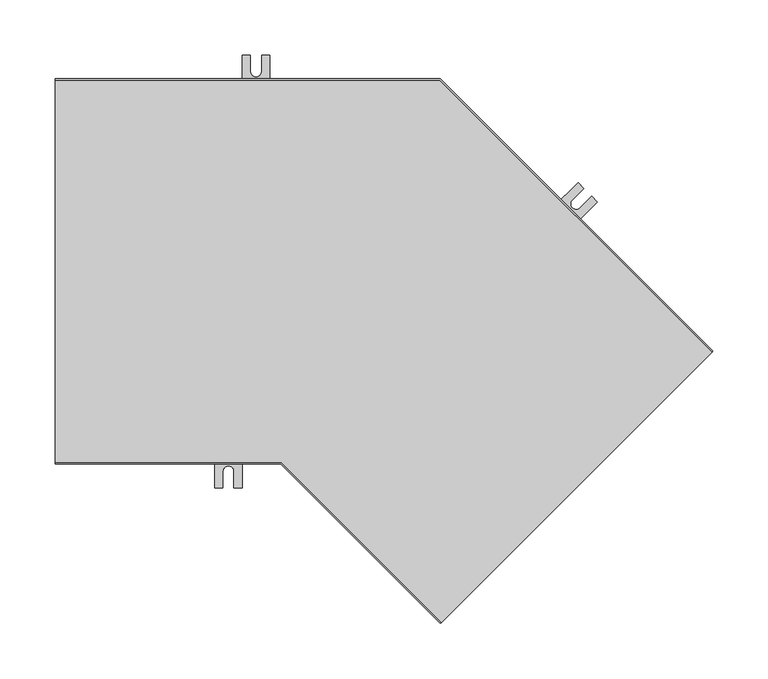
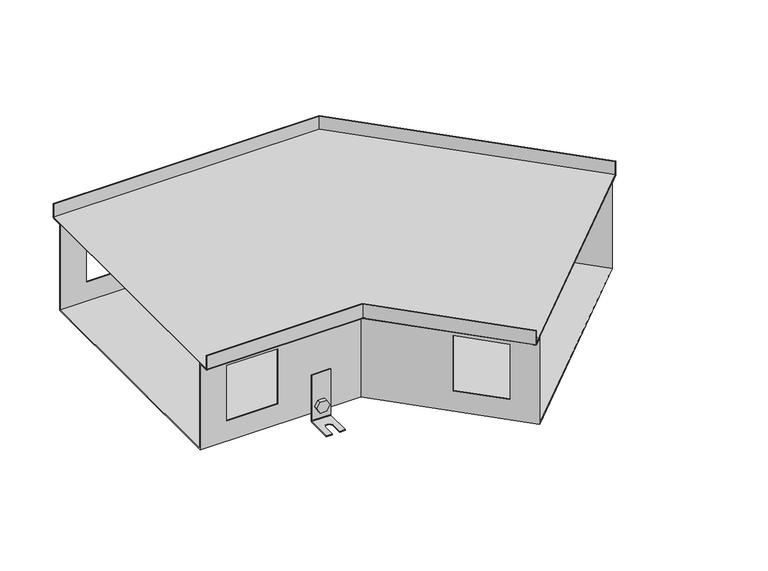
"""IFC4 building model written with IfcOpenShell, lengths in millimetres: proxy geometry, TECHNO_Угловой элемент_KVU : 350_140_135°."""

from ifc_helpers import new_model, si_unit, point, frame, frame_2d, origin, place, context, project, spatial, polyline, circle_curve, ellipse_curve, trimmed, segment, composite_curve, outline, extrude, source, transform, mapped, element, save
from ifc_brep_helpers import plane_surface, cylinder_surface, revolved_surface, advanced_brep


def mechanical_equipment_51e73712(model_context):
    return source(origin(), model_context, "Body", "SolidModel", [
        extrude(outline(composite_curve([segment(trimmed(circle_curve(frame_2d((0.0, -7.5000001)), 7.5), [point((0.0, -15.0))], [point((0.0, 0.0))], False, "CARTESIAN"), True, "CONTINUOUS"), segment(trimmed(circle_curve(frame_2d((0.0, -7.5000001)), 7.5), [point((0.0, 0.0))], [point((0.0, -15.0))], False, "CARTESIAN"), True, "CONTINUOUS")], self_intersect=False)), frame((422.4077344, -35.4349781, -130.5), z_axis=(0.7071067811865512, 0.7071067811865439, 0.0), x_axis=(0.0, 0.0, 1.0)), (0.0, 0.0, 1.0), 1.5),
        extrude(outline(polyline([(0.0, 0.0), (8.660254, 0.0), (12.990381, -7.5), (8.660254, -15.0), (0.0, -15.0), (-4.330127, -7.5), (0.0, 0.0)])), frame((406.5259365, -28.4627256, -130.5), z_axis=(0.7071067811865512, 0.7071067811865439, 0.0), x_axis=(0.3535533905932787, -0.3535533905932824, -0.8660254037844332)), (0.0, 0.0, 1.0), 5.1),
        advanced_brep(
        [(425.0947402, -39.8190401, -85.5), (425.0947402, -39.8190401, -148.5), (424.5290547, -40.3847255, -149.3), (401.194531, -63.7192493, -149.3), (401.194531, -63.7192493, -150.5), (424.5290547, -40.3847255, -150.5), (425.9432683, -38.970512, -148.5), (425.9432683, -38.970512, -85.5), (407.4170706, -22.1413706, -85.5), (408.2655988, -21.2928425, -85.5), (408.2655988, -21.2928425, -148.5), (406.8513852, -22.707056, -150.5), (383.5168614, -46.0415798, -150.5), (383.5168614, -46.0415798, -149.3), (406.8513852, -22.707056, -149.3), (407.4170706, -22.1413706, -148.5), (388.8201623, -51.3448807, -149.3), (399.426764, -40.7382789, -149.3), (406.4978318, -47.8093468, -149.3), (395.8912301, -58.4159485, -149.3), (395.8912301, -58.4159485, -150.5), (388.8201623, -51.3448807, -150.5), (406.4978318, -47.8093468, -150.5), (399.426764, -40.7382789, -150.5)],
        [
            (0, 1),
            (1, 2, circle_curve(frame((424.5290547, -40.3847255, -148.5), z_axis=(-0.7071067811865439, 0.7071067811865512, 0.0), x_axis=(-0.7071067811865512, -0.7071067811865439, 0.0)), 0.8)),
            (2, 3),
            (3, 4),
            (4, 5),
            (5, 6, circle_curve(frame((424.5290547, -40.3847255, -148.5), z_axis=(0.7071067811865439, -0.7071067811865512, 0.0), x_axis=(-0.7071067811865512, -0.7071067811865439, 0.0)), 2.0)),
            (6, 7),
            (7, 0),
            (8, 9),
            (9, 10),
            (10, 11, circle_curve(frame((406.8513852, -22.707056, -148.5), z_axis=(-0.7071067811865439, 0.7071067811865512, 0.0), x_axis=(-0.7071067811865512, -0.7071067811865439, 0.0)), 2.0)),
            (11, 12),
            (12, 13),
            (13, 14),
            (14, 15, circle_curve(frame((406.8513852, -22.707056, -148.5), z_axis=(0.7071067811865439, -0.7071067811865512, 0.0), x_axis=(-0.7071067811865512, -0.7071067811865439, 0.0)), 0.8)),
            (15, 8),
            (0, 8),
            (15, 1),
            (14, 2),
            (13, 16),
            (16, 17),
            (17, 18, circle_curve(frame((402.9622979, -44.2738128, -149.3), z_axis=(0.0, 0.0, -1.0), x_axis=(0.7071067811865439, -0.7071067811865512, 0.0)), 5.0)),
            (18, 19),
            (19, 3),
            (19, 20),
            (20, 4),
            (12, 21),
            (21, 16),
            (20, 22),
            (22, 23, circle_curve(frame((402.9622979, -44.2738128, -150.5), z_axis=(0.0, 0.0, 1.0), x_axis=(0.7071067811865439, -0.7071067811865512, 0.0)), 5.0)),
            (23, 21),
            (11, 5),
            (10, 6),
            (9, 7),
            (23, 17),
            (18, 22),
        ],
        [
            plane_surface(frame((425.0947402, -39.8190401, -85.5), z_axis=(0.7071067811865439, -0.7071067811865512, 0.0), x_axis=(0.0, 0.0, -1.0))),
            plane_surface(frame((407.4170706, -22.1413706, -85.5), z_axis=(-0.7071067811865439, 0.7071067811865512, 0.0), x_axis=(0.0, 0.0, 1.0))),
            plane_surface(frame((425.0947402, -39.8190401, -85.5), z_axis=(-0.7071067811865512, -0.7071067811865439, 0.0), x_axis=(-0.7071067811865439, 0.7071067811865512, 0.0))),
            revolved_surface(polyline([(406.2856997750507, -23.27274142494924, -148.5), (423.9633693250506, -40.950410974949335, -148.5)]), (406.8513852, -22.707056, -148.5), (-0.7071067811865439, 0.7071067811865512, 0.0)),
            plane_surface(frame((424.5290547, -40.3847255, -149.3), z_axis=(0.0, 0.0, 1.0), x_axis=(-0.7071067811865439, 0.7071067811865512, 0.0))),
            plane_surface(frame((401.194531, -63.7192493, -149.3), z_axis=(-0.7071067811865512, -0.7071067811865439, 0.0), x_axis=(-0.7071067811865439, 0.7071067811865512, 0.0))),
            plane_surface(frame((401.194531, -63.7192493, -150.5), z_axis=(0.0, 0.0, -1.0), x_axis=(-0.7071067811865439, 0.7071067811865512, 0.0))),
            cylinder_surface(frame((406.8513852, -22.707056, -148.5), z_axis=(0.7071067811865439, -0.7071067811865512, 0.0), x_axis=(-0.7071067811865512, -0.7071067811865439, 0.0)), 2.0),
            plane_surface(frame((425.9432683, -38.970512, -148.5), z_axis=(0.7071067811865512, 0.7071067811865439, 0.0), x_axis=(-0.7071067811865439, 0.7071067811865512, 0.0))),
            plane_surface(frame((425.9432683, -38.970512, -85.5), z_axis=(0.0, 0.0, 1.0), x_axis=(-0.7071067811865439, 0.7071067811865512, 0.0))),
            plane_surface(frame((399.426764, -40.7382789, -149.3), z_axis=(0.7071067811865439, -0.7071067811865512, 0.0), x_axis=(0.0, 0.0, -1.0))),
            plane_surface(frame((395.8912301, -58.4159485, -149.3), z_axis=(-0.707106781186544, 0.7071067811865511, 0.0), x_axis=(0.0, 0.0, -1.0))),
            revolved_surface(polyline([(406.4978318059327, -47.80934670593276, -149.3), (406.4978318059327, -47.80934670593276, -150.5)]), (402.9622979, -44.2738128, -150.5), (0.0, 0.0, 1.0)),
        ],
        [
            (0, [[1, 2, 3, 4, 5, 6, 7, 8]]),
            (1, [[9, 10, 11, 12, 13, 14, 15, 16]]),
            (2, [[-1, 17, -16, 18]]),
            (3, [[-2, -18, -15, 19]]),
            (4, [[-3, -19, -14, 20, 21, 22, 23, 24]]),
            (5, [[-4, -24, 25, 26]]),
            (5, [[-13, 27, 28, -20]]),
            (6, [[-5, -26, 29, 30, 31, -27, -12, 32]]),
            (7, [[-6, -32, -11, 33]]),
            (8, [[-7, -33, -10, 34]]),
            (9, [[-8, -34, -9, -17]]),
            (10, [[35, -21, -28, -31]]),
            (11, [[36, -29, -25, -23]]),
            (12, [[-35, -30, -36, -22]]),
        ],
    ),
        extrude(outline(composite_curve([segment(trimmed(circle_curve(frame_2d((0.0, -7.5)), 7.5), [point((0.0, -15.0))], [point((0.0, 0.0))], False, "CARTESIAN"), True, "CONTINUOUS"), segment(trimmed(circle_curve(frame_2d((0.0, -7.5)), 7.5), [point((0.0, 0.0))], [point((0.0, -15.0))], False, "CARTESIAN"), True, "CONTINUOUS")], self_intersect=False)), frame((452.6719046, 51.3977346, -130.5), z_axis=(0.7071067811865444, 0.7071067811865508, 0.0), x_axis=(0.0, 0.0, -1.0)), (0.0, 0.0, 1.0), 1.5),
        extrude(outline(polyline([(0.0, 0.0), (4.330127, -7.5), (0.0, -15.0000001), (-8.6602541, -15.0000001), (-12.9903811, -7.5000001), (-8.6602541, 0.0), (0.0, 0.0)])), frame((466.0081182, 41.8798977, -130.5), z_axis=(0.7071067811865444, 0.7071067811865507, 0.0), x_axis=(0.35355339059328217, -0.35355339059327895, 0.8660254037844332)), (0.0, 0.0, 1.0), 5.1),
        advanced_brep(
        [(451.045559, 56.8424569, -85.5), (451.045559, 56.8424569, -148.5), (451.6112445, 57.4081423, -149.3), (474.9457682, 80.7426661, -149.3), (474.9457682, 80.7426661, -150.5), (451.6112445, 57.4081423, -150.5), (450.1970309, 55.9939287, -148.5), (450.1970309, 55.9939287, -85.5), (468.7232286, 39.1647873, -85.5), (467.8747004, 38.3162592, -85.5), (467.8747004, 38.3162592, -148.5), (469.288914, 39.7304728, -150.5), (492.6234378, 63.0649965, -150.5), (492.6234378, 63.0649965, -149.3), (469.288914, 39.7304728, -149.3), (468.7232286, 39.1647873, -148.5), (487.3201369, 68.3682974, -149.3), (476.7135352, 57.7616957, -149.3), (469.6424674, 64.8327635, -149.3), (480.2490691, 75.4393652, -149.3), (480.2490691, 75.4393652, -150.5), (487.3201369, 68.3682974, -150.5), (469.6424674, 64.8327635, -150.5), (476.7135352, 57.7616957, -150.5)],
        [
            (0, 1),
            (1, 2, circle_curve(frame((451.6112445, 57.4081423, -148.5), z_axis=(0.7071067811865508, -0.7071067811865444, 0.0), x_axis=(0.7071067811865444, 0.7071067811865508, 0.0)), 0.8)),
            (2, 3),
            (3, 4),
            (4, 5),
            (5, 6, circle_curve(frame((451.6112445, 57.4081423, -148.5), z_axis=(-0.7071067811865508, 0.7071067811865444, 0.0), x_axis=(0.7071067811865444, 0.7071067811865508, 0.0)), 2.0)),
            (6, 7),
            (7, 0),
            (8, 9),
            (9, 10),
            (10, 11, circle_curve(frame((469.288914, 39.7304728, -148.5), z_axis=(0.7071067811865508, -0.7071067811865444, 0.0), x_axis=(0.7071067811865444, 0.7071067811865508, 0.0)), 2.0)),
            (11, 12),
            (12, 13),
            (13, 14),
            (14, 15, circle_curve(frame((469.288914, 39.7304728, -148.5), z_axis=(-0.7071067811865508, 0.7071067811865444, 0.0), x_axis=(0.7071067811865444, 0.7071067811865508, 0.0)), 0.8)),
            (15, 8),
            (0, 8),
            (15, 1),
            (14, 2),
            (13, 16),
            (16, 17),
            (17, 18, circle_curve(frame((473.1780013, 61.2972296, -149.3), z_axis=(0.0, 0.0, -1.0), x_axis=(-0.7071067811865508, 0.7071067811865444, 0.0)), 5.0)),
            (18, 19),
            (19, 3),
            (19, 20),
            (20, 4),
            (12, 21),
            (21, 16),
            (20, 22),
            (22, 23, circle_curve(frame((473.1780013, 61.2972296, -150.5), z_axis=(0.0, 0.0, 1.0), x_axis=(-0.7071067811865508, 0.7071067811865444, 0.0)), 5.0)),
            (23, 21),
            (11, 5),
            (10, 6),
            (9, 7),
            (23, 17),
            (18, 22),
        ],
        [
            plane_surface(frame((451.045559, 56.8424569, -85.5), z_axis=(-0.7071067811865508, 0.7071067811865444, 0.0), x_axis=(0.0, 0.0, -1.0))),
            plane_surface(frame((468.7232286, 39.1647873, -85.5), z_axis=(0.7071067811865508, -0.7071067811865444, 0.0), x_axis=(0.0, 0.0, 1.0))),
            plane_surface(frame((451.045559, 56.8424569, -85.5), z_axis=(0.7071067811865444, 0.7071067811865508, 0.0), x_axis=(0.7071067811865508, -0.7071067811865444, 0.0))),
            revolved_surface(polyline([(469.8545994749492, 40.29615817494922, -148.5), (452.1769298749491, 57.97382777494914, -148.5)]), (469.288914, 39.7304728, -148.5), (0.7071067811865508, -0.7071067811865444, 0.0)),
            plane_surface(frame((451.6112445, 57.4081423, -149.3), z_axis=(0.0, 0.0, 1.0000000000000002), x_axis=(0.7071067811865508, -0.7071067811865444, 0.0))),
            plane_surface(frame((474.9457682, 80.7426661, -149.3), z_axis=(0.7071067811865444, 0.7071067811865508, 0.0), x_axis=(0.7071067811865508, -0.7071067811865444, 0.0))),
            plane_surface(frame((474.9457682, 80.7426661, -150.5), z_axis=(0.0, 0.0, -1.0000000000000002), x_axis=(0.7071067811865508, -0.7071067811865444, 0.0))),
            cylinder_surface(frame((469.288914, 39.7304728, -148.5), z_axis=(-0.7071067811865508, 0.7071067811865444, 0.0), x_axis=(0.7071067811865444, 0.7071067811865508, 0.0)), 2.0),
            plane_surface(frame((450.1970309, 55.9939287, -148.5), z_axis=(-0.7071067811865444, -0.7071067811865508, 0.0), x_axis=(0.7071067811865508, -0.7071067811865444, 0.0))),
            plane_surface(frame((450.1970309, 55.9939287, -85.5), z_axis=(0.0, 0.0, 1.0000000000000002), x_axis=(0.7071067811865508, -0.7071067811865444, 0.0))),
            plane_surface(frame((476.7135352, 57.7616957, -149.3), z_axis=(-0.7071067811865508, 0.7071067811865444, 0.0), x_axis=(0.0, 0.0, -1.0))),
            plane_surface(frame((480.2490691, 75.4393652, -149.3), z_axis=(0.7071067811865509, -0.7071067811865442, 0.0), x_axis=(0.0, 0.0, -1.0))),
            revolved_surface(polyline([(469.64246739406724, 64.83276350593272, -149.3), (469.64246739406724, 64.83276350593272, -150.5)]), (473.1780013, 61.2972296, -150.5), (0.0, 0.0, 1.0)),
        ],
        [
            (0, [[1, 2, 3, 4, 5, 6, 7, 8]]),
            (1, [[9, 10, 11, 12, 13, 14, 15, 16]]),
            (2, [[-1, 17, -16, 18]]),
            (3, [[-2, -18, -15, 19]]),
            (4, [[-3, -19, -14, 20, 21, 22, 23, 24]]),
            (5, [[-4, -24, 25, 26]]),
            (5, [[-13, 27, 28, -20]]),
            (6, [[-5, -26, 29, 30, 31, -27, -12, 32]]),
            (7, [[-6, -32, -11, 33]]),
            (8, [[-7, -33, -10, 34]]),
            (9, [[-8, -34, -9, -17]]),
            (10, [[35, -21, -28, -31]]),
            (11, [[36, -29, -25, -23]]),
            (12, [[-35, -30, -36, -22]]),
        ],
    ),
        extrude(outline(composite_curve([segment(trimmed(circle_curve(frame_2d((-130.5, 182.5)), 7.5), [point((-130.5, 175.0))], [point((-130.5, 190.0))], False, "CARTESIAN"), True, "CONTINUOUS"), segment(trimmed(circle_curve(frame_2d((-130.5, 182.5)), 7.5), [point((-130.5, 190.0))], [point((-130.5, 175.0))], False, "CARTESIAN"), True, "CONTINUOUS")], self_intersect=False)), frame((0.0, 160.2, 0.0), z_axis=(0.0, 1.0, 0.0), x_axis=(0.0, 0.0, 1.0)), (0.0, 0.0, 1.0), 1.5),
        extrude(outline(polyline([(-130.5, 173.839746), (-138.0, 178.169873), (-138.0, 186.830127), (-130.5, 191.160254), (-123.0, 186.830127), (-123.0, 178.169873), (-130.5, 173.839746)])), frame((0.0, 162.9, 0.0), z_axis=(0.0, 1.0, 0.0), x_axis=(0.0, 0.0, 1.0)), (0.0, 0.0, 1.0), 5.1),
        advanced_brep(
        [(195.0, 162.9, -85.5), (195.0, 161.7, -85.5), (195.0, 161.7, -148.5), (195.0, 163.7, -150.5), (195.0, 196.7, -150.5), (195.0, 196.7, -149.3), (195.0, 163.7, -149.3), (195.0, 162.9, -148.5), (170.0, 162.9, -85.5), (170.0, 162.9, -148.5), (170.0, 163.7, -149.3), (170.0, 196.7, -149.3), (170.0, 196.7, -150.5), (170.0, 163.7, -150.5), (170.0, 161.7, -148.5), (170.0, 161.7, -85.5), (187.5, 196.7, -149.3), (187.5, 181.7, -149.3), (177.5, 181.7, -149.3), (177.5, 196.7, -149.3), (177.5, 196.7, -150.5), (187.5, 196.7, -150.5), (177.5, 181.7, -150.5), (187.5, 181.7, -150.5)],
        [
            (0, 1),
            (1, 2),
            (2, 3, circle_curve(frame((195.0, 163.7, -148.5), z_axis=(1.0, 0.0, 0.0), x_axis=(0.0, 1.0, 0.0)), 2.0)),
            (3, 4),
            (4, 5),
            (5, 6),
            (6, 7, circle_curve(frame((195.0, 163.7, -148.5), z_axis=(-1.0, 0.0, 0.0), x_axis=(0.0, 1.0, 0.0)), 0.8)),
            (7, 0),
            (8, 9),
            (9, 10, circle_curve(frame((170.0, 163.7, -148.5), z_axis=(1.0, 0.0, 0.0), x_axis=(0.0, 1.0, 0.0)), 0.8)),
            (10, 11),
            (11, 12),
            (12, 13),
            (13, 14, circle_curve(frame((170.0, 163.7, -148.5), z_axis=(-1.0, 0.0, 0.0), x_axis=(0.0, 1.0, 0.0)), 2.0)),
            (14, 15),
            (15, 8),
            (7, 9),
            (8, 0),
            (6, 10),
            (5, 16),
            (16, 17),
            (17, 18, circle_curve(frame((182.5, 181.7, -149.3), z_axis=(0.0, 0.0, -1.0), x_axis=(1.0, 0.0, 0.0)), 5.0)),
            (18, 19),
            (19, 11),
            (19, 20),
            (20, 12),
            (4, 21),
            (21, 16),
            (3, 13),
            (20, 22),
            (22, 23, circle_curve(frame((182.5, 181.7, -150.5), z_axis=(0.0, 0.0, 1.0), x_axis=(1.0, 0.0, 0.0)), 5.0)),
            (23, 21),
            (2, 14),
            (1, 15),
            (18, 22),
            (23, 17),
        ],
        [
            plane_surface(frame((195.0, 162.9, -85.5), z_axis=(1.0, 0.0, 0.0), x_axis=(0.0, 0.0, -1.0))),
            plane_surface(frame((170.0, 162.9, -85.5), z_axis=(-1.0, 0.0, 0.0), x_axis=(0.0, 0.0, 1.0))),
            plane_surface(frame((195.0, 162.9, -85.5), z_axis=(0.0, 1.0, 0.0), x_axis=(-1.0, 0.0, 0.0))),
            revolved_surface(polyline([(170.0, 164.5, -148.5), (195.0, 164.5, -148.5)]), (170.0, 163.7, -148.5), (-1.0, 0.0, 0.0)),
            plane_surface(frame((195.0, 163.7, -149.3), z_axis=(0.0, 0.0, 1.0), x_axis=(-1.0, 0.0, 0.0))),
            plane_surface(frame((195.0, 196.7, -149.3), z_axis=(0.0, 1.0, 0.0), x_axis=(-1.0, 0.0, 0.0))),
            plane_surface(frame((195.0, 196.7, -150.5), z_axis=(0.0, 0.0, -1.0), x_axis=(-1.0, 0.0, 0.0))),
            cylinder_surface(frame((170.0, 163.7, -148.5), z_axis=(1.0, 0.0, 0.0), x_axis=(0.0, 1.0, 0.0)), 2.0),
            plane_surface(frame((195.0, 161.7, -148.5), z_axis=(0.0, -1.0, 0.0), x_axis=(-1.0, 0.0, 0.0))),
            plane_surface(frame((195.0, 161.7, -85.5), z_axis=(0.0, 0.0, 1.0), x_axis=(-1.0, 0.0, 0.0))),
            plane_surface(frame((177.5, 181.7, -149.3), z_axis=(1.0, 0.0, 0.0), x_axis=(0.0, 0.0, -1.0))),
            plane_surface(frame((187.5, 196.7, -149.3), z_axis=(-1.0, 0.0, 0.0), x_axis=(0.0, 0.0, -1.0))),
            revolved_surface(polyline([(187.5, 181.7, -149.3), (187.5, 181.7, -150.5)]), (182.5, 181.7, -150.5), (0.0, 0.0, 1.0)),
        ],
        [
            (0, [[1, 2, 3, 4, 5, 6, 7, 8]]),
            (1, [[9, 10, 11, 12, 13, 14, 15, 16]]),
            (2, [[17, -9, 18, -8]]),
            (3, [[19, -10, -17, -7]]),
            (4, [[20, 21, 22, 23, 24, -11, -19, -6]]),
            (5, [[-24, 25, 26, -12]]),
            (5, [[27, 28, -20, -5]]),
            (6, [[29, -13, -26, 30, 31, 32, -27, -4]]),
            (7, [[33, -14, -29, -3]]),
            (8, [[34, -15, -33, -2]]),
            (9, [[-18, -16, -34, -1]]),
            (10, [[-30, -25, -23, 35]]),
            (11, [[-21, -28, -32, 36]]),
            (12, [[-22, -36, -31, -35]]),
        ],
    ),
        extrude(outline(composite_curve([segment(trimmed(circle_curve(frame_2d((-130.5, 157.5)), 7.5), [point((-130.5, 150.0))], [point((-130.5, 165.0))], False, "CARTESIAN"), True, "CONTINUOUS"), segment(trimmed(circle_curve(frame_2d((-130.5, 157.5)), 7.5), [point((-130.5, 165.0))], [point((-130.5, 150.0))], False, "CARTESIAN"), True, "CONTINUOUS")], self_intersect=False)), frame((0.0, -161.7, 0.0), z_axis=(0.0, 1.0, 0.0), x_axis=(0.0, 0.0, 1.0)), (0.0, 0.0, 1.0), 1.5),
        extrude(outline(polyline([(-130.5, 148.839746), (-138.0, 153.169873), (-138.0, 161.830127), (-130.5, 166.160254), (-123.0, 161.830127), (-123.0, 153.169873), (-130.5, 148.839746)])), frame((0.0, -168.0, 0.0), z_axis=(0.0, 1.0, 0.0), x_axis=(0.0, 0.0, 1.0)), (0.0, 0.0, 1.0), 5.1),
        advanced_brep(
        [(170.0, -162.9, -85.5), (170.0, -162.9, -148.5), (170.0, -163.7, -149.3), (170.0, -196.7, -149.3), (170.0, -196.7, -150.5), (170.0, -163.7, -150.5), (170.0, -161.7, -148.5), (170.0, -161.7, -85.5), (145.0, -162.9, -85.5), (145.0, -161.7, -85.5), (145.0, -161.7, -148.5), (145.0, -163.7, -150.5), (145.0, -196.7, -150.5), (145.0, -196.7, -149.3), (145.0, -163.7, -149.3), (145.0, -162.9, -148.5), (152.5, -196.7, -149.3), (152.5, -181.7, -149.3), (162.5, -181.7, -149.3), (162.5, -196.7, -149.3), (162.5, -196.7, -150.5), (152.5, -196.7, -150.5), (162.5, -181.7, -150.5), (152.5, -181.7, -150.5)],
        [
            (0, 1),
            (1, 2, circle_curve(frame((170.0, -163.7, -148.5), z_axis=(-1.0, 0.0, 0.0), x_axis=(0.0, -1.0, 0.0)), 0.8)),
            (2, 3),
            (3, 4),
            (4, 5),
            (5, 6, circle_curve(frame((170.0, -163.7, -148.5), z_axis=(1.0, 0.0, 0.0), x_axis=(0.0, -1.0, 0.0)), 2.0)),
            (6, 7),
            (7, 0),
            (8, 9),
            (9, 10),
            (10, 11, circle_curve(frame((145.0, -163.7, -148.5), z_axis=(-1.0, 0.0, 0.0), x_axis=(0.0, -1.0, 0.0)), 2.0)),
            (11, 12),
            (12, 13),
            (13, 14),
            (14, 15, circle_curve(frame((145.0, -163.7, -148.5), z_axis=(1.0, 0.0, 0.0), x_axis=(0.0, -1.0, 0.0)), 0.8)),
            (15, 8),
            (0, 8),
            (15, 1),
            (14, 2),
            (13, 16),
            (16, 17),
            (17, 18, circle_curve(frame((157.5, -181.7, -149.3), z_axis=(0.0, 0.0, -1.0), x_axis=(1.0, 0.0, 0.0)), 5.0)),
            (18, 19),
            (19, 3),
            (19, 20),
            (20, 4),
            (12, 21),
            (21, 16),
            (20, 22),
            (22, 23, circle_curve(frame((157.5, -181.7, -150.5), z_axis=(0.0, 0.0, 1.0), x_axis=(1.0, 0.0, 0.0)), 5.0)),
            (23, 21),
            (11, 5),
            (10, 6),
            (9, 7),
            (23, 17),
            (18, 22),
        ],
        [
            plane_surface(frame((170.0, -162.9, -85.5), z_axis=(1.0, 0.0, 0.0), x_axis=(0.0, 0.0, -1.0))),
            plane_surface(frame((145.0, -162.9, -85.5), z_axis=(-1.0, 0.0, 0.0), x_axis=(0.0, 0.0, 1.0))),
            plane_surface(frame((170.0, -162.9, -85.5), z_axis=(0.0, -1.0, 0.0), x_axis=(-1.0, 0.0, 0.0))),
            revolved_surface(polyline([(145.0, -164.5, -148.5), (170.0, -164.5, -148.5)]), (145.0, -163.7, -148.5), (-1.0, 0.0, 0.0)),
            plane_surface(frame((170.0, -163.7, -149.3), z_axis=(0.0, 0.0, 1.0), x_axis=(-1.0, 0.0, 0.0))),
            plane_surface(frame((170.0, -196.7, -149.3), z_axis=(0.0, -1.0, 0.0), x_axis=(-1.0, 0.0, 0.0))),
            plane_surface(frame((170.0, -196.7, -150.5), z_axis=(0.0, 0.0, -1.0), x_axis=(-1.0, 0.0, 0.0))),
            cylinder_surface(frame((145.0, -163.7, -148.5), z_axis=(1.0, 0.0, 0.0), x_axis=(0.0, -1.0, 0.0)), 2.0),
            plane_surface(frame((170.0, -161.7, -148.5), z_axis=(0.0, 1.0, 0.0), x_axis=(-1.0, 0.0, 0.0))),
            plane_surface(frame((170.0, -161.7, -85.5), z_axis=(0.0, 0.0, 1.0), x_axis=(-1.0, 0.0, 0.0))),
            plane_surface(frame((152.5, -181.7, -149.3), z_axis=(1.0, 0.0, 0.0), x_axis=(0.0, 0.0, -1.0))),
            plane_surface(frame((162.5, -196.7, -149.3), z_axis=(-1.0, 0.0, 0.0), x_axis=(0.0, 0.0, -1.0))),
            revolved_surface(polyline([(162.5, -181.7, -149.3), (162.5, -181.7, -150.5)]), (157.5, -181.7, -150.5), (0.0, 0.0, 1.0)),
        ],
        [
            (0, [[1, 2, 3, 4, 5, 6, 7, 8]]),
            (1, [[9, 10, 11, 12, 13, 14, 15, 16]]),
            (2, [[-1, 17, -16, 18]]),
            (3, [[-2, -18, -15, 19]]),
            (4, [[-3, -19, -14, 20, 21, 22, 23, 24]]),
            (5, [[-4, -24, 25, 26]]),
            (5, [[-13, 27, 28, -20]]),
            (6, [[-5, -26, 29, 30, 31, -27, -12, 32]]),
            (7, [[-6, -32, -11, 33]]),
            (8, [[-7, -33, -10, 34]]),
            (9, [[-8, -34, -9, -17]]),
            (10, [[35, -21, -28, -31]]),
            (11, [[36, -29, -25, -23]]),
            (12, [[-35, -30, -36, -22]]),
        ],
    ),
        extrude(outline(polyline([(596.6388453, -73.3359016), (350.8485281, -319.1262187), (205.5223094, -173.8), (0.0, -173.8), (0.0, 173.8), (349.5029437, 173.8), (596.6388453, -73.3359016)])), frame((0.0, 0.0, -19.3), z_axis=(0.0, 0.0, 1.0), x_axis=(1.0, 0.0, 0.0)), (0.0, 0.0, 1.0), 1.2),
        advanced_brep(
        [(350.0, -319.9747468, -19.3), (350.8485281, -319.1262187, -20.5), (360.4651804, -309.5095665, -20.5), (360.4651804, -309.5095665, -140.0), (587.0221931, -82.9525538, -140.0), (587.0221931, -82.9525538, -20.5), (596.6388453, -73.3359016, -20.5), (597.4873734, -72.4873734, -19.3), (597.4873734, -72.4873734, 0.0), (596.6388453, -73.3359016, 0.0), (596.6388453, -73.3359016, -19.3), (587.0221931, -82.9525538, -19.3), (586.1736649, -83.8010819, -20.5), (586.1736649, -83.8010819, -138.8), (361.3137085, -308.6610383, -138.8), (361.3137085, -308.6610383, -20.5), (360.4651804, -309.5095665, -19.3), (350.8485281, -319.1262187, -19.3), (350.8485281, -319.1262187, 0.0), (350.0, -319.9747468, 0.0), (0.0, -175.0, -19.3), (0.0, -175.0, 0.0), (0.0, -173.8, 0.0), (0.0, -173.8, -19.3), (0.0, -160.2, -19.3), (0.0, -159.0, -20.5), (0.0, -159.0, -138.8), (0.0, 159.0, -138.8), (0.0, 159.0, -20.5), (0.0, 160.2, -19.3), (0.0, 173.8, -19.3), (0.0, 173.8, 0.0), (0.0, 175.0, 0.0), (0.0, 175.0, -19.3), (0.0, 173.8, -20.5), (0.0, 160.2, -20.5), (0.0, 160.2, -140.0), (0.0, -160.2, -140.0), (0.0, -160.2, -20.5), (0.0, -173.8, -20.5), (205.5223094, -173.8, -20.5), (205.0252532, -175.0, -19.3), (205.5223094, -173.8, 0.0), (205.5223094, -173.8, -19.3), (211.1556139, -160.2, -140.0), (211.1556139, -160.2, -20.5), (35.0, -160.2, -35.0), (102.0, -160.2, -35.0), (102.0, -160.2, -112.0), (35.0, -160.2, -112.0), (211.6526702, -159.0, -20.5), (211.6526702, -159.0, -138.8), (102.0, -159.0, -35.0), (35.0, -159.0, -35.0), (35.0, -159.0, -112.0), (102.0, -159.0, -112.0), (211.1556139, -160.2, -19.3), (288.3402887, -237.3846748, -35.0), (335.716443, -284.7608291, -35.0), (335.716443, -284.7608291, -112.0), (288.3402887, -237.3846748, -112.0), (343.8696393, 160.2, -140.0), (343.372583, 159.0, -138.8), (336.5649712, -283.912301, -35.0), (289.1888168, -236.5361467, -35.0), (289.1888168, -236.5361467, -112.0), (336.5649712, -283.912301, -112.0), (205.0252532, -175.0, 0.0), (343.8696393, 160.2, -20.5), (562.2734557, -58.2038164, -35.0), (514.8973014, -10.8276621, -35.0), (514.8973014, -10.8276621, -112.0), (562.2734557, -58.2038164, -112.0), (349.5029437, 173.8, -20.5), (350.0, 175.0, -19.3), (350.0, 175.0, 0.0), (349.5029437, 173.8, 0.0), (349.5029437, 173.8, -19.3), (343.8696393, 160.2, -19.3), (343.372583, 159.0, -20.5), (514.0487732, -11.6761902, -35.0), (561.4249276, -59.0523446, -35.0), (561.4249276, -59.0523446, -112.0), (514.0487732, -11.6761902, -112.0), (102.0, 160.2, -35.0), (35.0, 160.2, -35.0), (35.0, 160.2, -112.0), (102.0, 160.2, -112.0), (35.0, 159.0, -35.0), (102.0, 159.0, -35.0), (102.0, 159.0, -112.0), (35.0, 159.0, -112.0)],
        [
            (0, 1, circle_curve(frame((350.8485281, -319.1262187, -19.3), z_axis=(0.707106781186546, -0.707106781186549, 0.0), x_axis=(-0.707106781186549, -0.707106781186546, 0.0)), 1.2)),
            (1, 2),
            (2, 3),
            (3, 4),
            (4, 5),
            (5, 6),
            (6, 7, circle_curve(frame((596.6388453, -73.3359016, -19.3), z_axis=(0.707106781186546, -0.707106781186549, 0.0), x_axis=(-0.707106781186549, -0.707106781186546, 0.0)), 1.2)),
            (7, 8),
            (8, 9),
            (9, 10),
            (10, 11),
            (11, 12, circle_curve(frame((587.0221931, -82.9525538, -20.5), z_axis=(0.707106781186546, -0.707106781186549, 0.0), x_axis=(-0.707106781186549, -0.707106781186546, 0.0)), 1.2)),
            (12, 13),
            (13, 14),
            (14, 15),
            (15, 16, circle_curve(frame((360.4651804, -309.5095665, -20.5), z_axis=(0.707106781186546, -0.707106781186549, 0.0), x_axis=(-0.707106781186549, -0.707106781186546, 0.0)), 1.2)),
            (16, 17),
            (17, 18),
            (18, 19),
            (19, 0),
            (20, 21),
            (21, 22),
            (22, 23),
            (23, 24),
            (24, 25, circle_curve(frame((0.0, -160.2, -20.5), z_axis=(-1.0, 0.0, 0.0), x_axis=(0.0, -1.0, 0.0)), 1.2)),
            (25, 26),
            (26, 27),
            (27, 28),
            (28, 29, circle_curve(frame((0.0, 160.2, -20.5), z_axis=(-1.0, 0.0, 0.0), x_axis=(0.0, -1.0, 0.0)), 1.2)),
            (29, 30),
            (30, 31),
            (31, 32),
            (32, 33),
            (33, 34, circle_curve(frame((0.0, 173.8, -19.3), z_axis=(-1.0, 0.0, 0.0), x_axis=(0.0, -1.0, 0.0)), 1.2)),
            (34, 35),
            (35, 36),
            (36, 37),
            (37, 38),
            (38, 39),
            (39, 20, circle_curve(frame((0.0, -173.8, -19.3), z_axis=(-1.0, 0.0, 0.0), x_axis=(0.0, -1.0, 0.0)), 1.2)),
            (39, 40),
            (40, 41, ellipse_curve(frame((205.5223094, -173.8, -19.3), z_axis=(-0.9238795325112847, 0.3826834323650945, 0.0), x_axis=(0.3826834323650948, 0.9238795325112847, 0.0)), 1.2988706, 1.2)),
            (41, 20),
            (22, 42),
            (42, 43),
            (43, 23),
            (37, 44),
            (44, 45),
            (45, 38),
            (46, 47),
            (47, 48),
            (48, 49),
            (49, 46),
            (25, 50),
            (50, 51),
            (51, 26),
            (52, 53),
            (53, 54),
            (54, 55),
            (55, 52),
            (24, 56),
            (56, 50, ellipse_curve(frame((211.1556139, -160.2, -20.5), z_axis=(-0.9238795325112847, 0.3826834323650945, 0.0), x_axis=(0.3826834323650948, 0.9238795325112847, 0.0)), 1.2988706, 1.2)),
            (0, 41),
            (40, 1),
            (45, 2),
            (44, 3),
            (57, 58),
            (58, 59),
            (59, 60),
            (60, 57),
            (36, 61),
            (61, 4),
            (13, 62),
            (62, 27),
            (51, 14),
            (50, 15),
            (63, 64),
            (64, 65),
            (65, 66),
            (66, 63),
            (56, 16),
            (43, 17),
            (42, 18),
            (21, 67),
            (67, 19),
            (61, 68),
            (68, 5),
            (69, 70),
            (70, 71),
            (71, 72),
            (72, 69),
            (68, 35),
            (34, 73),
            (73, 6),
            (73, 74, ellipse_curve(frame((349.5029437, 173.8, -19.3), z_axis=(0.9238795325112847, -0.3826834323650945, 0.0), x_axis=(-0.38268343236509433, -0.9238795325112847, 0.0)), 1.2988706, 1.2)),
            (74, 7),
            (74, 75),
            (75, 8),
            (75, 32),
            (31, 76),
            (76, 9),
            (76, 77),
            (77, 10),
            (77, 30),
            (29, 78),
            (78, 11),
            (78, 79, ellipse_curve(frame((343.8696393, 160.2, -20.5), z_axis=(0.9238795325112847, -0.3826834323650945, 0.0), x_axis=(-0.38268343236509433, -0.9238795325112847, 0.0)), 1.2988706, 1.2)),
            (79, 12),
            (79, 62),
            (80, 81),
            (81, 82),
            (82, 83),
            (83, 80),
            (84, 85),
            (85, 86),
            (86, 87),
            (87, 84),
            (33, 74),
            (28, 79),
            (88, 89),
            (89, 90),
            (90, 91),
            (91, 88),
            (41, 67),
            (46, 53),
            (52, 47),
            (88, 85),
            (84, 89),
            (49, 54),
            (91, 86),
            (48, 55),
            (90, 87),
            (57, 64),
            (63, 58),
            (80, 70),
            (69, 81),
            (66, 59),
            (72, 82),
            (65, 60),
            (71, 83),
        ],
        [
            plane_surface(frame((473.7436867, -196.2310601, 0.0), z_axis=(0.707106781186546, -0.707106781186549, 0.0), x_axis=(0.0, 0.0, 1.0))),
            plane_surface(frame((0.0, 0.0, 0.0), z_axis=(-1.0, 0.0, 0.0), x_axis=(0.0, 0.0, 1.0))),
            cylinder_surface(frame((277.5126266, -173.8, -19.3), z_axis=(1.0, 0.0, 0.0), x_axis=(0.0, -1.0, 0.0)), 1.2),
            plane_surface(frame((205.5223094, -173.8, -19.3), z_axis=(0.0, 1.0, 0.0), x_axis=(-1.0, 0.0, 0.0))),
            plane_surface(frame((211.1556139, -160.2, -20.5), z_axis=(0.0, -1.0, 0.0), x_axis=(-1.0, 0.0, 0.0))),
            plane_surface(frame((211.6526702, -159.0, -138.8), z_axis=(0.0, 1.0, 0.0), x_axis=(-1.0, 0.0, 0.0))),
            cylinder_surface(frame((277.5126266, -160.2, -20.5), z_axis=(1.0, 0.0, 0.0), x_axis=(0.0, -1.0, 0.0)), 1.2),
            cylinder_surface(frame((350.8485281, -319.1262187, -19.3), z_axis=(0.707106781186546, -0.707106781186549, 0.0), x_axis=(-0.707106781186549, -0.707106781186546, 0.0)), 1.2),
            plane_surface(frame((350.8485281, -319.1262187, -20.5), z_axis=(0.0, 0.0, -1.0), x_axis=(-0.707106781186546, 0.707106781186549, 0.0))),
            plane_surface(frame((360.4651804, -309.5095665, -20.5), z_axis=(-0.7071067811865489, -0.7071067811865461, 0.0), x_axis=(-0.7071067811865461, 0.7071067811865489, 0.0))),
            plane_surface(frame((360.4651804, -309.5095665, -140.0), z_axis=(0.0, 0.0, -1.0), x_axis=(-0.7071067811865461, 0.707106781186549, 0.0))),
            plane_surface(frame((586.1736649, -83.8010819, -138.8), z_axis=(0.0, 0.0, 1.0), x_axis=(-0.7071067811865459, 0.7071067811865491, 0.0))),
            plane_surface(frame((361.3137085, -308.6610383, -138.8), z_axis=(0.7071067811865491, 0.707106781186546, 0.0), x_axis=(-0.707106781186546, 0.7071067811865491, 0.0))),
            cylinder_surface(frame((360.4651804, -309.5095665, -20.5), z_axis=(0.707106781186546, -0.707106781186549, 0.0), x_axis=(-0.707106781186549, -0.707106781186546, 0.0)), 1.2),
            plane_surface(frame((360.4651804, -309.5095665, -19.3), z_axis=(0.0, 0.0, 1.0), x_axis=(-0.7071067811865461, 0.707106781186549, 0.0))),
            plane_surface(frame((350.8485281, -319.1262187, -19.3), z_axis=(0.7071067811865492, 0.7071067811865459, 0.0), x_axis=(-0.7071067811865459, 0.7071067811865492, 0.0))),
            plane_surface(frame((350.8485281, -319.1262187, 0.0), z_axis=(0.0, 0.0, 1.0000000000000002), x_axis=(-0.7071067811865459, 0.7071067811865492, 0.0))),
            plane_surface(frame((587.0221931, -82.9525538, -140.0), z_axis=(0.7071067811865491, 0.7071067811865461, 0.0), x_axis=(-0.7071067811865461, 0.7071067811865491, 0.0))),
            plane_surface(frame((587.0221931, -82.9525538, -20.5), z_axis=(0.0, 0.0, -1.0000000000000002), x_axis=(-0.7071067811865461, 0.7071067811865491, 0.0))),
            cylinder_surface(frame((596.6388453, -73.3359016, -19.3), z_axis=(0.707106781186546, -0.707106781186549, 0.0), x_axis=(-0.707106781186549, -0.707106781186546, 0.0)), 1.2),
            plane_surface(frame((597.4873734, -72.4873734, -19.3), z_axis=(0.707106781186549, 0.707106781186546, 0.0), x_axis=(-0.707106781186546, 0.707106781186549, 0.0))),
            plane_surface(frame((597.4873734, -72.4873734, 0.0), z_axis=(0.0, 0.0, 1.0), x_axis=(-0.707106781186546, 0.7071067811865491, 0.0))),
            plane_surface(frame((596.6388453, -73.3359016, 0.0), z_axis=(-0.707106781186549, -0.707106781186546, 0.0), x_axis=(-0.707106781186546, 0.707106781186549, 0.0))),
            plane_surface(frame((596.6388453, -73.3359016, -19.3), z_axis=(0.0, 0.0, 1.0000000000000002), x_axis=(-0.7071067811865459, 0.7071067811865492, 0.0))),
            cylinder_surface(frame((587.0221931, -82.9525538, -20.5), z_axis=(0.707106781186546, -0.707106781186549, 0.0), x_axis=(-0.707106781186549, -0.707106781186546, 0.0)), 1.2),
            plane_surface(frame((586.1736649, -83.8010819, -20.5), z_axis=(-0.7071067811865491, -0.7071067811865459, 0.0), x_axis=(-0.7071067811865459, 0.7071067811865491, 0.0))),
            plane_surface(frame((343.8696393, 160.2, -140.0), z_axis=(0.0, 1.0, 0.0), x_axis=(-1.0, 0.0, 0.0))),
            cylinder_surface(frame((277.5126266, 173.8, -19.3), z_axis=(1.0, 0.0, 0.0), x_axis=(0.0, -1.0, 0.0)), 1.2),
            plane_surface(frame((350.0, 175.0, -19.3), z_axis=(0.0, 1.0, 0.0), x_axis=(-1.0, 0.0, 0.0))),
            plane_surface(frame((349.5029437, 173.8, 0.0), z_axis=(0.0, -1.0, 0.0), x_axis=(-1.0, 0.0, 0.0))),
            cylinder_surface(frame((277.5126266, 160.2, -20.5), z_axis=(1.0, 0.0, 0.0), x_axis=(0.0, -1.0, 0.0)), 1.2),
            plane_surface(frame((343.372583, 159.0, -20.5), z_axis=(0.0, -1.0, 0.0), x_axis=(-1.0, 0.0, 0.0))),
            plane_surface(frame((205.0252532, -175.0, 0.0), z_axis=(0.0, -1.0, 0.0), x_axis=(-1.0, 0.0, 0.0))),
            plane_surface(frame((350.0, -319.9747468, 0.0), z_axis=(-0.707106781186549, -0.7071067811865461, 0.0), x_axis=(-0.7071067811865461, 0.707106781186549, 0.0))),
            plane_surface(frame((35.0, 175.0, -35.0), z_axis=(0.0, 0.0, -1.0), x_axis=(0.0, -1.0, 0.0))),
            plane_surface(frame((35.0, 175.0, -112.0), z_axis=(1.0, 0.0, 0.0), x_axis=(0.0, -1.0, 0.0))),
            plane_surface(frame((102.0, 175.0, -112.0), z_axis=(0.0, 0.0, 1.0), x_axis=(0.0, -1.0, 0.0))),
            plane_surface(frame((102.0, 175.0, -35.0), z_axis=(-1.0, 0.0, 0.0), x_axis=(0.0, -1.0, 0.0))),
            plane_surface(frame((525.3624817, -0.3624817, -35.0), z_axis=(0.0, 0.0, -1.0000000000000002), x_axis=(-0.7071067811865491, -0.7071067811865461, 0.0))),
            plane_surface(frame((572.7386361, -47.7386361, -35.0), z_axis=(-0.7071067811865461, 0.7071067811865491, 0.0), x_axis=(-0.7071067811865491, -0.7071067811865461, 0.0))),
            plane_surface(frame((572.7386361, -47.7386361, -112.0), z_axis=(0.0, 0.0, 1.0000000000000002), x_axis=(-0.7071067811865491, -0.7071067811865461, 0.0))),
            plane_surface(frame((525.3624817, -0.3624817, -112.0), z_axis=(0.7071067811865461, -0.7071067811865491, 0.0), x_axis=(-0.7071067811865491, -0.7071067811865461, 0.0))),
        ],
        [
            (0, [[1, 2, 3, 4, 5, 6, 7, 8, 9, 10, 11, 12, 13, 14, 15, 16, 17, 18, 19, 20]]),
            (1, [[21, 22, 23, 24, 25, 26, 27, 28, 29, 30, 31, 32, 33, 34, 35, 36, 37, 38, 39, 40]]),
            (2, [[-40, 41, 42, 43]]),
            (3, [[-23, 44, 45, 46]]),
            (4, [[-38, 47, 48, 49], [50, 51, 52, 53]]),
            (5, [[-26, 54, 55, 56], [57, 58, 59, 60]]),
            (6, [[-25, 61, 62, -54]]),
            (7, [[-1, 63, -42, 64]]),
            (8, [[-2, -64, -41, -39, -49, 65]]),
            (9, [[-3, -65, -48, 66], [67, 68, 69, 70]]),
            (10, [[-4, -66, -47, -37, 71, 72]]),
            (11, [[-14, 73, 74, -27, -56, 75]]),
            (12, [[-15, -75, -55, 76], [77, 78, 79, 80]]),
            (13, [[-16, -76, -62, 81]]),
            (14, [[-17, -81, -61, -24, -46, 82]]),
            (15, [[-18, -82, -45, 83]]),
            (16, [[-19, -83, -44, -22, 84, 85]]),
            (17, [[-5, -72, 86, 87], [88, 89, 90, 91]]),
            (18, [[-6, -87, 92, -35, 93, 94]]),
            (19, [[-7, -94, 95, 96]]),
            (20, [[-8, -96, 97, 98]]),
            (21, [[-9, -98, 99, -32, 100, 101]]),
            (22, [[-10, -101, 102, 103]]),
            (23, [[-11, -103, 104, -30, 105, 106]]),
            (24, [[-12, -106, 107, 108]]),
            (25, [[-13, -108, 109, -73], [110, 111, 112, 113]]),
            (26, [[-36, -92, -86, -71], [114, 115, 116, 117]]),
            (27, [[-34, 118, -95, -93]]),
            (28, [[-33, -99, -97, -118]]),
            (29, [[-31, -104, -102, -100]]),
            (30, [[-29, 119, -107, -105]]),
            (31, [[-28, -74, -109, -119], [120, 121, 122, 123]]),
            (32, [[-21, -43, 124, -84]]),
            (33, [[-20, -85, -124, -63]]),
            (34, [[125, -57, 126, -50]]),
            (34, [[127, -114, 128, -120]]),
            (35, [[-125, -53, 129, -58]]),
            (35, [[-127, -123, 130, -115]]),
            (36, [[-129, -52, 131, -59]]),
            (36, [[-130, -122, 132, -116]]),
            (37, [[-131, -51, -126, -60]]),
            (37, [[-132, -121, -128, -117]]),
            (38, [[133, -77, 134, -67]]),
            (38, [[135, -88, 136, -110]]),
            (39, [[-134, -80, 137, -68]]),
            (39, [[-136, -91, 138, -111]]),
            (40, [[-137, -79, 139, -69]]),
            (40, [[-138, -90, 140, -112]]),
            (41, [[-133, -70, -139, -78]]),
            (41, [[-135, -113, -140, -89]]),
        ],
    ),
    ])


if __name__ == "__main__":
    model = new_model("IFC4")
    model_context = context("Model", 3, world=origin())
    ifc_project = project(units=[si_unit("LENGTHUNIT", "METRE", prefix="MILLI")], contexts=[model_context])
    site = spatial("IfcSite", under=ifc_project)
    building = spatial("IfcBuilding", under=site)
    placement = place(None, origin())
    mechanical_equipment_shape = mechanical_equipment_51e73712(model_context)
    element("IfcBuildingElementProxy", 1, Name="TECHNO_Угловой элемент_KVU : 350_140_135°", ObjectType="TECHNO_Угловой элемент_KVU : 350_140_135°", at=placement, inside=building, context=model_context, shape_type="MappedRepresentation", body=[
        mapped(mechanical_equipment_shape, transform((0.0, 0.0, 0.0), x_axis=(1.0, 0.0, 0.0), y_axis=(0.0, 1.0, 0.0), z_axis=(0.0, 0.0, 1.0))),
    ])
    save(model, "model.ifc")
